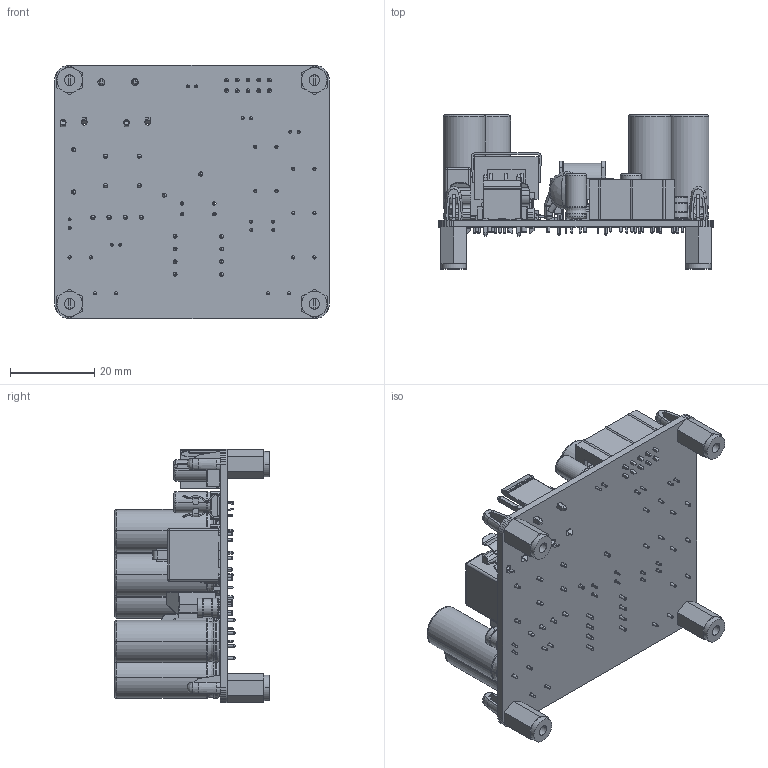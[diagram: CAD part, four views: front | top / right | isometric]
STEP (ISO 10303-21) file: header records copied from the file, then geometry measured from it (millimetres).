
FILE_DESCRIPTION (( 'STEP AP214' ), '1' );
FILE_NAME ('SMPS DLCP V1.STEP', '2016-04-23T11:36:57', ( '' ), ( '' ), 'SwSTEP 2.0', 'SolidWorks 2014', '' );
FILE_SCHEMA (( 'AUTOMOTIVE_DESIGN' ));
Length unit declared in the file: millimetre
Products named in the file (3): PCB SMPS DLCP V1; TCBN-T1-M3-6-10; SMPS DLCP V1
Assembly tree (5 placements, depth 2):
  SMPS DLCP V1
    PCB SMPS DLCP V1
    TCBN-T1-M3-6-10  x4
Bounding box: 65.02 x 36.6 x 60.02 mm (x, y, z)
Surface area: 24538.9 mm2 (no closed solid volume)
Topology: 0 solids, 267 shells, 2173 faces, 6721 edges, 4537 vertices
Faces by surface type: plane 967, cylinder 816, bspline 354, cone 36
Entity records: 96449 total; most frequent: CARTESIAN_POINT 21269, DIRECTION 10910, ORIENTED_EDGE 9680, EDGE_CURVE 6123, VERTEX_POINT 4282, LINE 3762, VECTOR 3762, AXIS2_PLACEMENT_3D 3574
